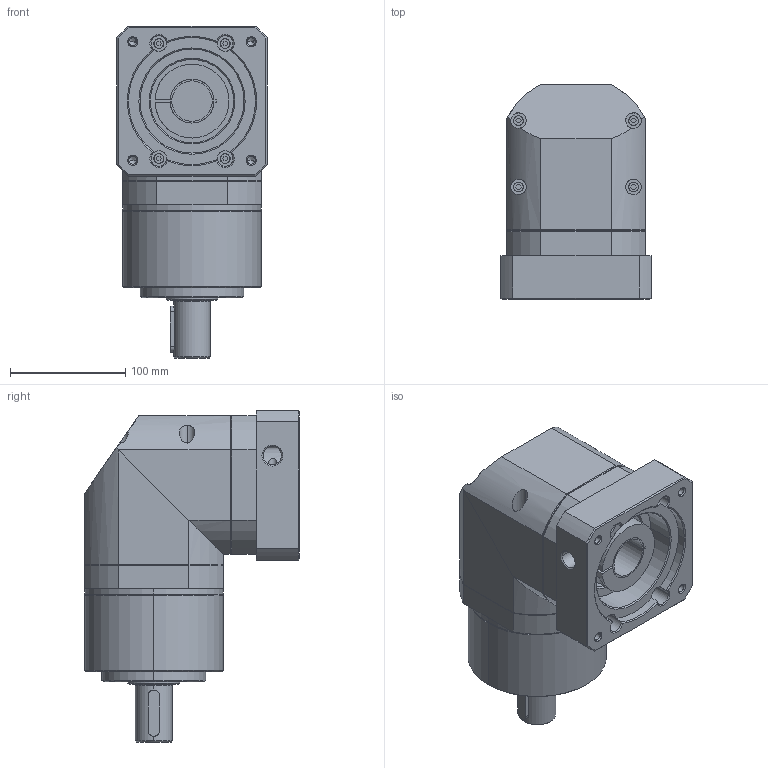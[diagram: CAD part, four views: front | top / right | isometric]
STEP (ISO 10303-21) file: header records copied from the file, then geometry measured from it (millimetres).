
FILE_DESCRIPTION (( 'STEP AP203' ), '1' );
FILE_NAME ('LBER120-(L1)-S2-P2-110145M8.STEP', '2024-11-16T01:34:21', ( '微软用户' ), ( '微软中国' ), 'SwSTEP 2.0', 'SolidWorks 2022', '' );
FILE_SCHEMA (( 'CONFIG_CONTROL_DESIGN' ));
Length unit declared in the file: millimetre
Products named in the file (1): LBER120-(L1)-S2-P2-110145M8
Bounding box: 130 x 186 x 287.5 mm (x, y, z)
Volume: 3370605.9 mm3; surface area: 291946.3 mm2
Topology: 13 solids, 13 shells, 437 faces, 982 edges, 589 vertices
Faces by surface type: plane 156, cylinder 142, cone 107, torus 32
Entity records: 12599 total; most frequent: CARTESIAN_POINT 2680, DIRECTION 2186, ORIENTED_EDGE 1928, EDGE_CURVE 964, AXIS2_PLACEMENT_3D 857, VERTEX_POINT 589, EDGE_LOOP 497, LINE 472
